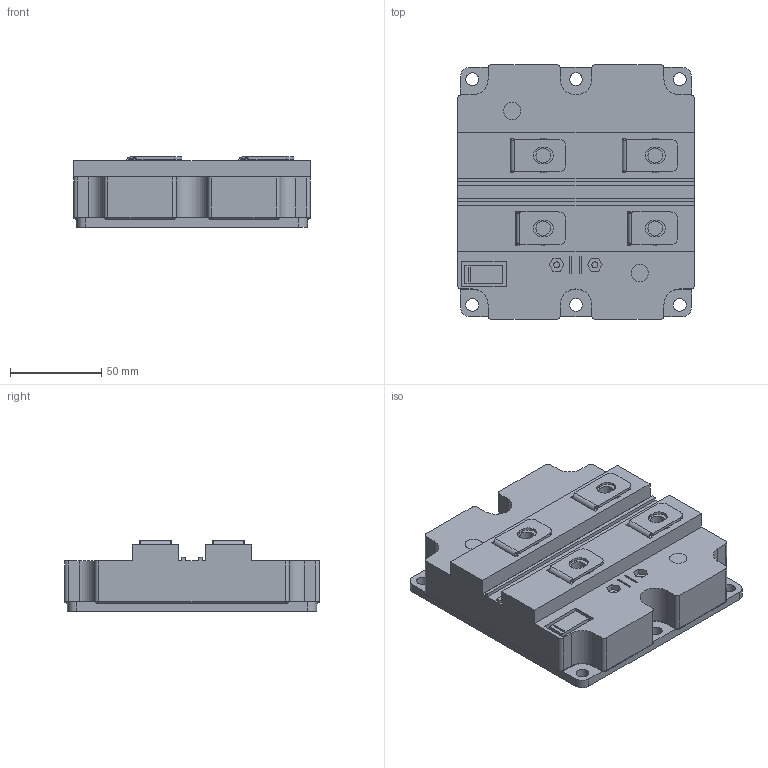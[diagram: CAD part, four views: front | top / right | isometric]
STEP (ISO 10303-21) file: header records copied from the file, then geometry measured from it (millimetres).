
FILE_DESCRIPTION (( 'STEP AP214' ), '1' );
FILE_NAME ('LD-ES-170634-MDM800E33D.STEP', '2017-08-28T02:42:56', ( 'Flora110' ), ( '' ), 'SwSTEP 2.0', 'SolidWorks 2010', '' );
FILE_SCHEMA (( 'AUTOMOTIVE_DESIGN' ));
Length unit declared in the file: millimetre
Products named in the file (1): LD-ES-170634-MDM800E33D
Bounding box: 130 x 140 x 38.5 mm (x, y, z)
Volume: 509777.3 mm3; surface area: 100812.6 mm2
Topology: 1 solids, 10 shells, 517 faces, 1289 edges, 839 vertices
Faces by surface type: plane 250, cylinder 148, bspline 75, torus 40, sphere 4
Full cylindrical faces by diameter (mm): 2 x4, 3.2 x2, 4 x4, 6.8 x4, 7 x6, 8 x4, 9 x4, 9.5 x2, 18.1 x4, 18.5 x4
Entity records: 17316 total; most frequent: CARTESIAN_POINT 5504, ORIENTED_EDGE 2440, DIRECTION 2295, EDGE_CURVE 1220, VERTEX_POINT 821, AXIS2_PLACEMENT_3D 808, VECTOR 679, LINE 679
